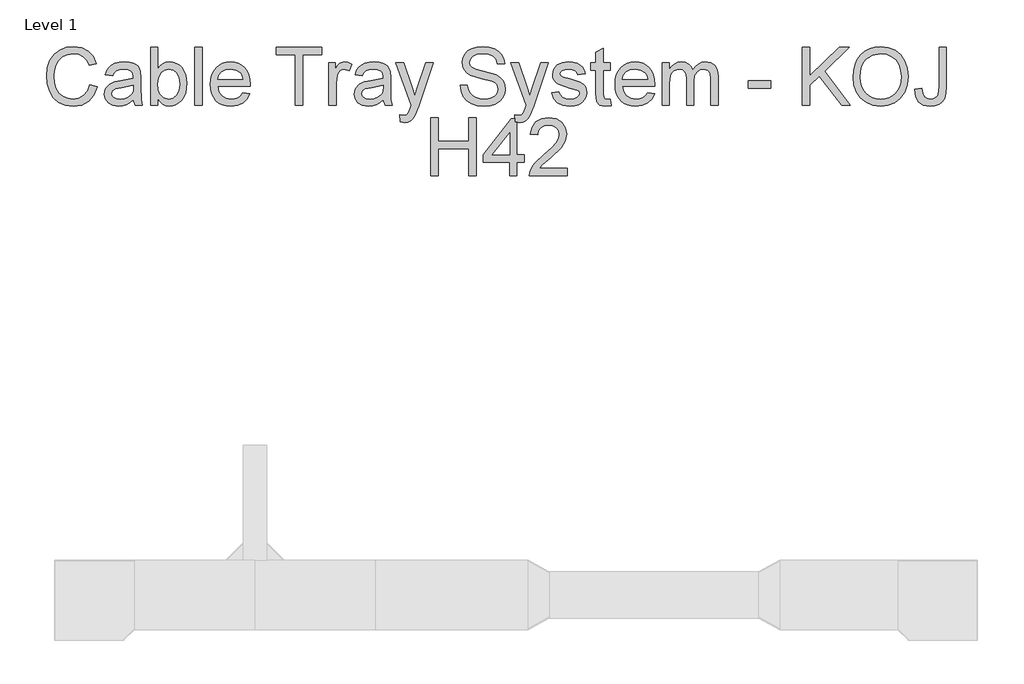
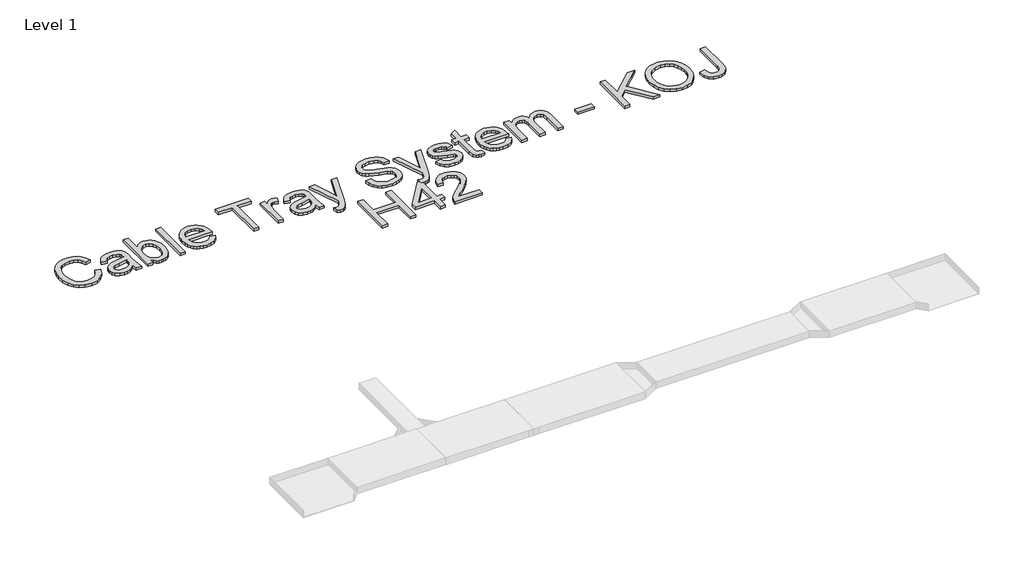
# One storey, part 12 of 32: 1 proxy.
"""IFC4 building model written with IfcOpenShell, lengths in millimetres."""

from ifc_helpers import new_model, si_unit, origin, origin_with_axes, place, context, project, spatial, polyline, outline, extrude, element, save

model = new_model("IFC4")

# Units and contexts
model_context = context("Model", 3, world=origin())
ifc_project = project(units=[si_unit("LENGTHUNIT", "METRE", prefix="MILLI")], contexts=[model_context])

# Site, building, storey
site = spatial("IfcSite", under=ifc_project)
building = spatial("IfcBuilding", under=site)
storey = spatial("IfcBuildingStorey", under=building, Name="Level 1", Elevation=0.0)

# Proxy
placement = place(None, origin())
element("IfcBuildingElementProxy", 1, Name="250mm Arial 3", ObjectType="250mm Arial 3", at=placement, inside=storey, context=model_context, shape_type="SweptSolid", body=[
    extrude(outline(polyline([(-11340.3713614, 48792.4106539), (-11308.9787644, 48784.31725), (-11323.464118, 48747.7359841), (-11346.1961596, 48721.01089), (-11376.0559149, 48704.6631338), (-11411.9244094, 48699.2138818), (-11448.3370627, 48703.3372258), (-11477.2541204, 48715.7072579), (-11499.4190106, 48735.8947824), (-11515.5751616, 48763.4706036), (-11525.4389976, 48795.8902044), (-11528.7269429, 48830.6090677), (-11525.0098019, 48867.2286547), (-11513.8583789, 48898.8511778), (-11495.8551538, 48924.472626), (-11471.5826063, 48943.0889878), (-11442.7958402, 48954.4243517), (-11411.2499591, 48958.2028064), (-11376.8299999, 48953.3130415), (-11348.3727947, 48938.643747), (-11326.7673917, 48915.0992993), (-11312.902839, 48883.584075), (-11344.295436, 48876.1038078), (-11355.1786117, 48898.9967978), (-11370.0471756, 48914.7007605), (-11389.0850689, 48923.7828472), (-11412.4762324, 48926.8102095), (-11439.438917, 48923.4532863), (-11461.5884788, 48913.3825166), (-11478.3960874, 48897.6555613), (-11489.3329126, 48877.3300811), (-11495.3339876, 48854.3527848), (-11497.334346, 48830.6703814), (-11494.9661056, 48801.6690174), (-11487.8613846, 48776.5917281), (-11475.7519356, 48756.3965394), (-11458.3695113, 48742.0414774), (-11437.5305291, 48733.4652284), (-11415.0514064, 48730.6064787), (-11388.8474784, 48734.4998965), (-11367.0121492, 48746.1801498), (-11350.5264373, 48765.5246114), (-11340.3713614, 48792.4106539)])), origin_with_axes(), (0.0, 0.0, 1.0), 15.0),
    extrude(outline(polyline([(-11152.0157798, 48726.6824041), (-11167.0146353, 48713.8218627), (-11182.4580149, 48705.406562), (-11198.6984722, 48700.7620518), (-11216.0885606, 48699.2138818), (-11242.3231454, 48702.938687), (-11261.6752712, 48714.1131026), (-11273.6084434, 48731.0816596), (-11277.5861675, 48752.1888891), (-11276.0839827, 48765.2027147), (-11271.5774283, 48777.0209238), (-11255.7891593, 48795.0471415), (-11233.8082101, 48805.3478374), (-11206.6462561, 48810.0689897), (-11152.1997208, 48820.8601949), (-11152.0157798, 48827.8499528), (-11154.1770865, 48841.8601254), (-11160.6610067, 48851.0265185), (-11175.1616887, 48857.8323354), (-11195.3645416, 48860.100941), (-11214.0652097, 48858.591092), (-11227.1250205, 48854.0615449), (-11236.0308305, 48845.6845653), (-11242.269496, 48832.6324187), (-11273.6620929, 48836.5564933), (-11268.2128408, 48853.7243198), (-11260.0811159, 48867.2133262), (-11248.5081615, 48877.5293505), (-11232.7352209, 48885.1782303), (-11213.4444088, 48889.914711), (-11191.3178396, 48891.4935379), (-11170.095647, 48890.098652), (-11153.27271, 48885.9139943), (-11140.5884453, 48879.6216794), (-11131.7822701, 48871.9038217), (-11122.1560245, 48850.5973228), (-11120.6231829, 48823.1288005), (-11120.6231829, 48784.0719953), (-11119.0290276, 48729.5334895), (-11112.7750337, 48703.1379564), (-11144.1676306, 48703.1379564), (-11152.0157798, 48726.6824041)]), holes=[polyline([(-11152.0157798, 48789.4675979), (-11202.6608678, 48779.8413524), (-11229.6695376, 48774.7523181), (-11241.901614, 48766.4749732), (-11246.1935706, 48754.3961811), (-11243.8559871, 48745.0611754), (-11236.8432365, 48737.4122956), (-11225.3086032, 48732.3079329), (-11209.4053711, 48730.6064787), (-11192.544113, 48732.4842097), (-11177.6448922, 48738.1174028), (-11165.5661, 48746.4177403), (-11157.1661278, 48756.2969047), (-11153.4413226, 48766.4749732), (-11152.1997208, 48780.5771164), (-11152.0157798, 48789.4675979)])]), origin_with_axes(), (0.0, 0.0, 1.0), 15.0),
    extrude(outline(polyline([(-11046.0657652, 48703.1379564), (-11077.4583621, 48703.1379564), (-11077.4583621, 48954.2787318), (-11046.0657652, 48954.2787318), (-11046.0657652, 48861.1432733), (-11035.7420767, 48874.4215141), (-11024.084816, 48883.9059718), (-11011.093983, 48889.5966464), (-10996.7695779, 48891.4935379), (-10980.5980985, 48889.7844195), (-10965.3156673, 48884.6570642), (-10951.7960039, 48876.4333687), (-10940.9128283, 48865.4352299), (-10925.921637, 48835.5448178), (-10920.4953775, 48798.1128248), (-10926.1132422, 48756.2049342), (-10933.135573, 48739.2746982), (-10942.9668361, 48725.0269351), (-10954.7678007, 48713.7337243), (-10967.699236, 48705.6671451), (-10981.7611421, 48700.8271976), (-10996.9535189, 48699.2138818), (-11011.7492728, 48701.2947143), (-11024.8665652, 48707.5372119), (-11036.305396, 48717.9413746), (-11046.0657652, 48732.5072023), (-11046.0657652, 48703.1379564)]), holes=[polyline([(-11046.0657652, 48796.6412968), (-11043.9197869, 48770.4603615), (-11037.481852, 48752.7407121), (-11021.0344611, 48736.140037), (-10999.6513202, 48730.6064787), (-10981.5331319, 48734.6838375), (-10966.0514313, 48746.9159138), (-10955.4288386, 48767.2260656), (-10951.8879744, 48795.5376509), (-10955.2832187, 48824.2631033), (-10965.4689514, 48844.3433289), (-10980.4678069, 48856.161538), (-10998.3024195, 48860.100941), (-11016.4206078, 48856.0235822), (-11031.9023084, 48843.7915059), (-11042.524901, 48823.8492361), (-11046.0657652, 48796.6412968)])]), origin_with_axes(), (0.0, 0.0, 1.0), 15.0),
    extrude(outline(polyline([(-10885.178706, 48703.1379564), (-10885.178706, 48954.2787318), (-10853.7861091, 48954.2787318), (-10853.7861091, 48703.1379564), (-10885.178706, 48703.1379564)])), origin_with_axes(), (0.0, 0.0, 1.0), 15.0),
    extrude(outline(polyline([(-10677.5706334, 48758.075001), (-10646.7911731, 48754.1509264), (-10657.8812824, 48730.9590323), (-10675.5779392, 48713.6225933), (-10699.4826047, 48702.8160597), (-10729.19674, 48699.2138818), (-10748.6753253, 48700.7678), (-10766.0309248, 48705.4295547), (-10781.2635387, 48713.1991458), (-10794.3731668, 48724.0765733), (-10804.9152853, 48737.759101), (-10812.4453699, 48753.9439928), (-10816.9634206, 48772.6312485), (-10818.4694375, 48793.8208682), (-10816.9480922, 48815.7290074), (-10812.3840562, 48835.0389801), (-10804.7773295, 48851.7507861), (-10794.1279122, 48865.8644256), (-10781.0527729, 48877.0771622), (-10766.1688805, 48885.0862598), (-10749.476235, 48889.8917184), (-10730.9748363, 48891.4935379), (-10713.0693299, 48889.8955505), (-10696.8767739, 48885.1015883), (-10682.3971685, 48877.1116512), (-10669.6305136, 48865.9257393), (-10659.2091065, 48851.8427566), (-10651.7652443, 48835.1616074), (-10647.2989269, 48815.8822916), (-10645.8101545, 48794.0048092), (-10645.9940955, 48785.5435233), (-10787.0768406, 48785.5435233), (-10781.642917, 48762.0450609), (-10769.019966, 48744.7699355), (-10750.802143, 48734.1473429), (-10728.5836034, 48730.6064787), (-10711.8756294, 48732.2466193), (-10697.8041431, 48737.1670409), (-10686.3691444, 48745.6743121), (-10677.5706334, 48758.075001)]), holes=[polyline([(-10787.0768406, 48816.9361202), (-10677.2027514, 48816.9361202), (-10681.4487227, 48833.5214669), (-10689.7720529, 48845.3856612), (-10708.0741821, 48856.4221211), (-10731.0974637, 48860.100941), (-10752.2583426, 48857.1655493), (-10769.75573, 48848.359374), (-10781.9188285, 48834.632777), (-10787.0768406, 48816.9361202)])]), origin_with_axes(), (0.0, 0.0, 1.0), 15.0),
    extrude(outline(polyline([(-10449.6064237, 48703.1379564), (-10449.6064237, 48922.8861348), (-10532.0119906, 48922.8861348), (-10532.0119906, 48954.2787318), (-10335.8082599, 48954.2787318), (-10335.8082599, 48922.8861348), (-10418.2138268, 48922.8861348), (-10418.2138268, 48703.1379564), (-10449.6064237, 48703.1379564)])), origin_with_axes(), (0.0, 0.0, 1.0), 15.0),
    extrude(outline(polyline([(-10304.4156629, 48703.1379564), (-10304.4156629, 48887.5694633), (-10276.9471406, 48887.5694633), (-10276.9471406, 48860.284882), (-10266.7997289, 48876.1038078), (-10257.4493949, 48885.423485), (-10237.8290218, 48891.4935379), (-10222.194037, 48889.0716481), (-10206.3137976, 48881.8059787), (-10216.7984344, 48853.6630061), (-10238.8713541, 48860.100941), (-10248.2446808, 48858.5527709), (-10256.6216604, 48853.9082608), (-10267.9340317, 48836.7404343), (-10273.023066, 48800.0748621), (-10273.023066, 48703.1379564), (-10304.4156629, 48703.1379564)])), origin_with_axes(), (0.0, 0.0, 1.0), 15.0),
    extrude(outline(polyline([(-10068.971186, 48726.6824041), (-10083.9700415, 48713.8218627), (-10099.4134211, 48705.406562), (-10115.6538784, 48700.7620518), (-10133.0439668, 48699.2138818), (-10159.2785516, 48702.938687), (-10178.6306774, 48714.1131026), (-10190.5638496, 48731.0816596), (-10194.5415737, 48752.1888891), (-10193.0393889, 48765.2027147), (-10188.5328345, 48777.0209238), (-10172.7445655, 48795.0471415), (-10150.7636163, 48805.3478374), (-10123.6016623, 48810.0689897), (-10069.155127, 48820.8601949), (-10068.971186, 48827.8499528), (-10071.1324927, 48841.8601254), (-10077.6164129, 48851.0265185), (-10092.1170949, 48857.8323354), (-10112.3199478, 48860.100941), (-10131.0206159, 48858.591092), (-10144.0804267, 48854.0615449), (-10152.9862367, 48845.6845653), (-10159.2249022, 48832.6324187), (-10190.6174991, 48836.5564933), (-10185.168247, 48853.7243198), (-10177.0365221, 48867.2133262), (-10165.4635677, 48877.5293505), (-10149.6906271, 48885.1782303), (-10130.399815, 48889.914711), (-10108.2732458, 48891.4935379), (-10087.0510532, 48890.098652), (-10070.2281162, 48885.9139943), (-10057.5438515, 48879.6216794), (-10048.7376763, 48871.9038217), (-10039.1114307, 48850.5973228), (-10037.5785891, 48823.1288005), (-10037.5785891, 48784.0719953), (-10035.9844338, 48729.5334895), (-10029.7304399, 48703.1379564), (-10061.1230368, 48703.1379564), (-10068.971186, 48726.6824041)]), holes=[polyline([(-10068.971186, 48789.4675979), (-10119.616274, 48779.8413524), (-10146.6249438, 48774.7523181), (-10158.8570202, 48766.4749732), (-10163.1489768, 48754.3961811), (-10160.8113933, 48745.0611754), (-10153.7986427, 48737.4122956), (-10142.2640094, 48732.3079329), (-10126.3607773, 48730.6064787), (-10109.4995192, 48732.4842097), (-10094.6002984, 48738.1174028), (-10082.5215062, 48746.4177403), (-10074.121534, 48756.2969047), (-10070.3967288, 48766.4749732), (-10069.155127, 48780.5771164), (-10068.971186, 48789.4675979)])]), origin_with_axes(), (0.0, 0.0, 1.0), 15.0),
    extrude(outline(polyline([(-9994.4137683, 48632.5046133), (-9998.3378429, 48662.7322506), (-9982.3962898, 48659.9731356), (-9967.497069, 48663.4373577), (-9958.3613328, 48673.0942601), (-9949.7774196, 48696.2095122), (-9947.3248729, 48703.8124067), (-10014.0341414, 48887.5694633), (-9980.9247618, 48887.5694633), (-9945.5467766, 48785.1756413), (-9933.2227298, 48744.2181125), (-9920.898683, 48780.3931754), (-9884.5396791, 48887.5694633), (-9851.6755542, 48887.5694633), (-9915.8709624, 48698.7233725), (-9932.5482795, 48657.7658437), (-9941.0862074, 48644.6907044), (-9950.7584382, 48635.6316103), (-9961.9941675, 48630.3433066), (-9975.2225909, 48628.5805387), (-9994.4137683, 48632.5046133)])), origin_with_axes(), (0.0, 0.0, 1.0), 15.0),
    extrude(outline(polyline([(-9735.4248437, 48789.4675979), (-9704.0322468, 48789.4675979), (-9700.4300689, 48772.0468526), (-9693.9154919, 48758.0443442), (-9683.7527518, 48746.9312422), (-9669.2060846, 48738.1787164), (-9651.4251215, 48732.4995381), (-9631.5594938, 48730.6064787), (-9614.0697706, 48732.0396856), (-9598.7566825, 48736.3393065), (-9586.3483294, 48743.1451234), (-9577.572811, 48752.0969186), (-9572.3534852, 48762.3746218), (-9570.6137099, 48773.1581628), (-9575.8253715, 48792.7478791), (-9583.7654912, 48800.4963936), (-9597.1625272, 48807.0033064), (-9642.8718651, 48818.990128), (-9692.076082, 48834.4718287), (-9707.7034025, 48845.0331076), (-9718.7781834, 48857.8323354), (-9725.3770667, 48872.5936004), (-9727.5766945, 48889.0409913), (-9724.8559006, 48907.4274268), (-9716.6935188, 48924.5722607), (-9703.304147, 48939.1035995), (-9684.9023831, 48949.64955), (-9662.8141349, 48956.0644923), (-9638.3653107, 48958.2028064), (-9611.877807, 48955.9648576), (-9588.7012413, 48949.2510112), (-9569.6633481, 48938.1992229), (-9555.5918618, 48922.9474485), (-9546.6860518, 48904.4460498), (-9543.1451876, 48883.6453887), (-9574.5377845, 48883.6453887), (-9580.3012691, 48902.3767136), (-9592.3187476, 48915.8963769), (-9611.0960578, 48924.0817513), (-9637.1390373, 48926.8102095), (-9663.7951536, 48924.1124082), (-9682.0819544, 48916.0190043), (-9692.6585618, 48904.1088247), (-9696.1840976, 48889.9606963), (-9693.6855657, 48877.8972325), (-9686.18997, 48868.1943449), (-9668.4703206, 48859.5184612), (-9634.9317454, 48850.6586365), (-9579.3815641, 48834.9010243), (-9561.4856379, 48823.5120109), (-9549.0006427, 48809.455853), (-9541.6659954, 48792.8858348), (-9539.221113, 48773.9552405), (-9542.0338774, 48754.6031147), (-9550.4721707, 48736.4006201), (-9564.1911034, 48720.7349785), (-9582.8457862, 48708.9934115), (-9605.2789237, 48701.6587642), (-9630.3332204, 48699.2138818), (-9661.0896881, 48701.8503694), (-9686.4045679, 48709.7598323), (-9706.5690997, 48722.9729273), (-9721.8745236, 48741.5203112), (-9731.7000385, 48764.1143971), (-9735.4248437, 48789.4675979)])), origin_with_axes(), (0.0, 0.0, 1.0), 15.0),
    extrude(outline(polyline([(-9496.0562922, 48632.5046133), (-9499.9803668, 48662.7322506), (-9484.0388137, 48659.9731356), (-9469.1395929, 48663.4373577), (-9460.0038567, 48673.0942601), (-9451.4199435, 48696.2095122), (-9448.9673968, 48703.8124067), (-9515.6766653, 48887.5694633), (-9482.5672857, 48887.5694633), (-9447.1893005, 48785.1756413), (-9434.8652537, 48744.2181125), (-9422.5412068, 48780.3931754), (-9386.182203, 48887.5694633), (-9353.3180781, 48887.5694633), (-9417.5134862, 48698.7233725), (-9434.1908033, 48657.7658437), (-9442.7287313, 48644.6907044), (-9452.4009621, 48635.6316103), (-9463.6366914, 48630.3433066), (-9476.8651148, 48628.5805387), (-9496.0562922, 48632.5046133)])), origin_with_axes(), (0.0, 0.0, 1.0), 15.0),
    extrude(outline(polyline([(-9339.0933076, 48758.075001), (-9307.7007107, 48761.9990756), (-9302.7496322, 48748.5713828), (-9293.1693719, 48738.6998826), (-9278.8986161, 48732.6298297), (-9259.8760513, 48730.6064787), (-9241.0834127, 48732.4612171), (-9227.8703177, 48738.0254323), (-9220.0528253, 48746.0881793), (-9217.4469945, 48755.4385134), (-9220.0681537, 48763.4399468), (-9227.9316314, 48769.5406565), (-9260.2439333, 48778.4924517), (-9307.5167697, 48793.851525), (-9319.4805987, 48801.5693827), (-9328.1488182, 48811.7857723), (-9333.4141293, 48823.8492361), (-9335.169233, 48837.1083163), (-9329.5283757, 48860.4994798), (-9314.1386456, 48878.3724134), (-9294.1810473, 48887.6614338), (-9267.1723775, 48891.4935379), (-9246.7395984, 48889.9530321), (-9228.9739637, 48885.3315145), (-9214.6878796, 48878.0811735), (-9204.693752, 48868.6541974), (-9198.0718761, 48856.3531432), (-9193.9025468, 48840.4805679), (-9225.2951437, 48836.5564933), (-9229.2575394, 48846.4356577), (-9237.0980244, 48853.8776039), (-9248.8932409, 48858.5451067), (-9264.7198309, 48860.100941), (-9282.7460487, 48858.6140846), (-9294.7635272, 48854.1535154), (-9301.5233588, 48847.7155805), (-9303.7766361, 48840.2966269), (-9300.0365024, 48831.1608907), (-9288.3255923, 48824.2324465), (-9261.2862656, 48817.5492569), (-9215.2090457, 48802.7726634), (-9203.038283, 48795.7062634), (-9193.8105763, 48786.0340326), (-9187.9934423, 48773.7253142), (-9186.0543976, 48758.7494513), (-9188.3306674, 48743.2677507), (-9195.159477, 48728.7057551), (-9206.2802431, 48716.2054314), (-9221.4323828, 48706.9087468), (-9239.7345121, 48701.137598), (-9260.305247, 48699.2138818), (-9291.958427, 48702.9233586), (-9315.0583506, 48714.0517889), (-9330.4787375, 48732.4765455), (-9339.0933076, 48758.075001)])), origin_with_axes(), (0.0, 0.0, 1.0), 15.0),
    extrude(outline(polyline([(-9084.0284576, 48729.3188917), (-9080.104383, 48702.2182514), (-9103.587517, 48699.2138818), (-9118.6553504, 48700.5167972), (-9129.8910797, 48704.4255434), (-9143.0122042, 48718.0984909), (-9146.8136514, 48753.7217307), (-9146.8136514, 48856.1768664), (-9170.3580991, 48856.1768664), (-9170.3580991, 48887.5694633), (-9146.8136514, 48887.5694633), (-9146.8136514, 48932.3897531), (-9115.4210545, 48950.8451665), (-9115.4210545, 48887.5694633), (-9084.0284576, 48887.5694633), (-9084.0284576, 48856.1768664), (-9115.4210545, 48856.1768664), (-9115.4210545, 48754.6414357), (-9113.7655855, 48738.4546279), (-9108.4006398, 48732.7218002), (-9097.7014051, 48730.6064787), (-9084.0284576, 48729.3188917)])), origin_with_axes(), (0.0, 0.0, 1.0), 15.0),
    extrude(outline(polyline([(-8923.5092804, 48758.075001), (-8892.7298201, 48754.1509264), (-8903.8199294, 48730.9590323), (-8921.5165862, 48713.6225933), (-8945.4212517, 48702.8160597), (-8975.135387, 48699.2138818), (-8994.6139723, 48700.7678), (-9011.9695718, 48705.4295547), (-9027.2021857, 48713.1991458), (-9040.3118138, 48724.0765733), (-9050.8539323, 48737.759101), (-9058.3840169, 48753.9439928), (-9062.9020676, 48772.6312485), (-9064.4080845, 48793.8208682), (-9062.8867392, 48815.7290074), (-9058.3227032, 48835.0389801), (-9050.7159765, 48851.7507861), (-9040.0665592, 48865.8644256), (-9026.9914199, 48877.0771622), (-9012.1075275, 48885.0862598), (-8995.414882, 48889.8917184), (-8976.9134833, 48891.4935379), (-8959.0079769, 48889.8955505), (-8942.8154209, 48885.1015883), (-8928.3358155, 48877.1116512), (-8915.5691606, 48865.9257393), (-8905.1477535, 48851.8427566), (-8897.7038913, 48835.1616074), (-8893.2375739, 48815.8822916), (-8891.7488015, 48794.0048092), (-8891.9327425, 48785.5435233), (-9033.0154876, 48785.5435233), (-9027.581564, 48762.0450609), (-9014.958613, 48744.7699355), (-8996.74079, 48734.1473429), (-8974.5222504, 48730.6064787), (-8957.8142764, 48732.2466193), (-8943.7427901, 48737.1670409), (-8932.3077914, 48745.6743121), (-8923.5092804, 48758.075001)]), holes=[polyline([(-9033.0154876, 48816.9361202), (-8923.1413984, 48816.9361202), (-8927.3873697, 48833.5214669), (-8935.7106999, 48845.3856612), (-8954.0128291, 48856.4221211), (-8977.0361107, 48860.100941), (-8998.1969896, 48857.1655493), (-9015.694377, 48848.359374), (-9027.8574755, 48834.632777), (-9033.0154876, 48816.9361202)])]), origin_with_axes(), (0.0, 0.0, 1.0), 15.0),
    extrude(outline(polyline([(-8860.3562045, 48703.1379564), (-8860.3562045, 48887.5694633), (-8828.9636076, 48887.5694633), (-8828.9636076, 48857.2191987), (-8819.5213031, 48871.1603935), (-8807.3811972, 48882.0818902), (-8792.9571573, 48889.140626), (-8776.6630506, 48891.4935379), (-8759.2039843, 48889.0946407), (-8745.20914, 48881.8979492), (-8734.75516, 48870.3786442), (-8727.9186863, 48855.0119067), (-8716.4760234, 48870.9726204), (-8703.4238768, 48882.3731301), (-8688.7622464, 48889.213436), (-8672.4911323, 48891.4935379), (-8648.8930352, 48887.6997549), (-8631.441633, 48876.3184056), (-8620.6580921, 48857.0429219), (-8617.0635784, 48829.5667354), (-8617.0635784, 48703.1379564), (-8648.4561753, 48703.1379564), (-8648.4561753, 48816.0777289), (-8651.3685744, 48842.2893211), (-8661.914525, 48855.1958477), (-8679.8487722, 48860.100941), (-8696.8556503, 48856.9586156), (-8710.720203, 48847.5316395), (-8719.9402455, 48831.1762191), (-8723.013593, 48807.248561), (-8723.013593, 48703.1379564), (-8754.4061899, 48703.1379564), (-8754.4061899, 48819.5726079), (-8756.2226073, 48837.3229141), (-8761.6718593, 48849.9841861), (-8771.2597838, 48857.5717523), (-8785.4922185, 48860.100941), (-8797.5863391, 48858.4148152), (-8808.7300979, 48853.3564378), (-8817.9271478, 48845.048436), (-8824.1811417, 48833.6134374), (-8828.9636076, 48796.1507875), (-8828.9636076, 48703.1379564), (-8860.3562045, 48703.1379564)])), origin_with_axes(), (0.0, 0.0, 1.0), 15.0),
    extrude(outline(polyline([(-8487.5691161, 48777.6953741), (-8487.5691161, 48809.087971), (-8389.4672507, 48809.087971), (-8389.4672507, 48777.6953741), (-8487.5691161, 48777.6953741)])), origin_with_axes(), (0.0, 0.0, 1.0), 15.0),
    extrude(outline(polyline([(-8252.1246392, 48703.1379564), (-8252.1246392, 48954.2787318), (-8220.7320423, 48954.2787318), (-8220.7320423, 48831.3448317), (-8091.9733439, 48954.2787318), (-8048.0727592, 48954.2787318), (-8156.1687521, 48851.0265185), (-8044.1486846, 48703.1379564), (-8082.5310394, 48703.1379564), (-8178.4256128, 48829.8119901), (-8220.7320423, 48789.4675979), (-8220.7320423, 48703.1379564), (-8252.1246392, 48703.1379564)])), origin_with_axes(), (0.0, 0.0, 1.0), 15.0),
    extrude(outline(polyline([(-8032.3764607, 48825.3974061), (-8030.2841319, 48854.8547905), (-8024.0071453, 48880.932259), (-8013.5455011, 48903.6298117), (-7998.8991992, 48922.9474485), (-7980.9457914, 48938.3716676), (-7960.5628296, 48949.3889669), (-7937.7503138, 48955.9993465), (-7912.508244, 48958.2028064), (-7879.567477, 48954.0641339), (-7850.0296184, 48941.6481166), (-7825.5041521, 48921.8284741), (-7807.6005617, 48895.4789262), (-7796.6560723, 48863.8717315), (-7793.0079092, 48828.2791484), (-7796.8476775, 48792.2113845), (-7808.3669825, 48760.1596656), (-7826.9296948, 48733.7641325), (-7851.8996853, 48714.6649256), (-7881.1846249, 48703.0766427), (-7912.692185, 48699.2138818), (-7946.1387897, 48703.4828458), (-7975.8452608, 48716.2897377), (-8000.3094135, 48736.4772622), (-8018.0290629, 48762.8881238), (-8028.7896113, 48793.2767094), (-8032.3764607, 48825.3974061)]), holes=[polyline([(-8000.9838638, 48825.0908378), (-7999.4146172, 48804.2786803), (-7994.7068773, 48785.8041064), (-7986.8606441, 48769.667116), (-7975.8759176, 48755.867709), (-7962.5229508, 48744.8159208), (-7947.5719966, 48736.9217863), (-7931.023055, 48732.1853056), (-7912.876126, 48730.6064787), (-7894.4187965, 48732.200634), (-7877.6744175, 48736.9831), (-7862.6429891, 48744.9538765), (-7849.3245113, 48756.1129637), (-7838.420259, 48770.2036105), (-7830.6315074, 48786.969066), (-7825.9582564, 48806.4093302), (-7824.4005061, 48828.5244031), (-7827.0676506, 48856.3148221), (-7835.069084, 48880.3344507), (-7848.1978727, 48899.9778164), (-7866.2470831, 48914.6394468), (-7888.0210987, 48923.7675188), (-7912.324303, 48926.8102095), (-7946.0928044, 48920.9470902), (-7974.8029285, 48903.3577323), (-7986.2570877, 48889.6713724), (-7994.43863, 48872.0647701), (-7999.3475553, 48850.5379252), (-8000.9838638, 48825.0908378)])]), origin_with_axes(), (0.0, 0.0, 1.0), 15.0),
    extrude(outline(polyline([(-7765.5393869, 48773.6486721), (-7734.14679, 48777.6953741), (-7730.8818373, 48754.871362), (-7723.4168984, 48740.6006062), (-7712.0125566, 48733.1050106), (-7696.9293948, 48730.6064787), (-7685.3334477, 48732.0243572), (-7675.4389549, 48736.2779928), (-7667.8054035, 48742.9765108), (-7662.9922807, 48751.7290366), (-7659.5893723, 48782.845722), (-7659.5893723, 48954.2787318), (-7628.1967754, 48954.2787318), (-7628.1967754, 48783.397545), (-7630.0898348, 48755.4461776), (-7635.7690131, 48734.6225238), (-7645.5638712, 48719.4090705), (-7659.8039701, 48708.2883043), (-7677.6845679, 48701.4824874), (-7698.4009228, 48699.2138818), (-7727.4176151, 48703.896713), (-7748.7394424, 48717.9452067), (-7761.6766259, 48741.2367355), (-7765.5393869, 48773.6486721)])), origin_with_axes(), (0.0, 0.0, 1.0), 15.0),
    extrude(outline(polyline([(-9862.9572687, 48398.2009118), (-9862.9572687, 48649.3416872), (-9831.5646718, 48649.3416872), (-9831.5646718, 48547.3157472), (-9698.1461349, 48547.3157472), (-9698.1461349, 48649.3416872), (-9666.753538, 48649.3416872), (-9666.753538, 48398.2009118), (-9698.1461349, 48398.2009118), (-9698.1461349, 48515.9231502), (-9831.5646718, 48515.9231502), (-9831.5646718, 48398.2009118), (-9862.9572687, 48398.2009118)])), origin_with_axes(), (0.0, 0.0, 1.0), 15.0),
    extrude(outline(polyline([(-9521.5627772, 48398.2009118), (-9521.5627772, 48457.062031), (-9635.360941, 48457.062031), (-9635.360941, 48488.4546279), (-9513.714628, 48645.4176125), (-9490.1701803, 48645.4176125), (-9490.1701803, 48488.4546279), (-9458.7775834, 48488.4546279), (-9458.7775834, 48457.062031), (-9490.1701803, 48457.062031), (-9490.1701803, 48398.2009118), (-9521.5627772, 48398.2009118)]), holes=[polyline([(-9521.5627772, 48488.4546279), (-9521.5627772, 48585.4528473), (-9596.7333315, 48488.4546279), (-9521.5627772, 48488.4546279)])]), origin_with_axes(), (0.0, 0.0, 1.0), 15.0),
    extrude(outline(polyline([(-9270.4220018, 48429.5935087), (-9270.4220018, 48398.2009118), (-9435.2331357, 48398.2009118), (-9431.860884, 48419.8446358), (-9424.1200337, 48436.7595434), (-9412.792334, 48453.1686132), (-9373.4902741, 48489.5582739), (-9339.6144738, 48519.6479554), (-9319.2889935, 48541.8588309), (-9309.1262534, 48559.8850487), (-9305.7386734, 48577.4207571), (-9308.9346482, 48593.1400482), (-9318.5225727, 48606.2075232), (-9333.2608451, 48615.0136985), (-9351.9078638, 48617.9490902), (-9371.4899158, 48615.0826764), (-9386.7033691, 48606.4834347), (-9396.5212199, 48592.8258156), (-9399.9164641, 48574.7842695), (-9431.309061, 48578.7083441), (-9423.6985023, 48609.0739371), (-9407.2434472, 48631.2541557), (-9382.8022871, 48644.8198043), (-9351.2334134, 48649.3416872), (-9319.4346135, 48644.3139666), (-9295.0394387, 48629.2308048), (-9279.519417, 48606.6980325), (-9274.3460764, 48579.3214807), (-9279.92562, 48549.553696), (-9298.473004, 48518.7742357), (-9343.4465779, 48475.7626991), (-9379.5603271, 48445.5657187), (-9393.7237839, 48429.5935087), (-9270.4220018, 48429.5935087)])), origin_with_axes(), (0.0, 0.0, 1.0), 15.0),
])

save(model, "model.ifc")
